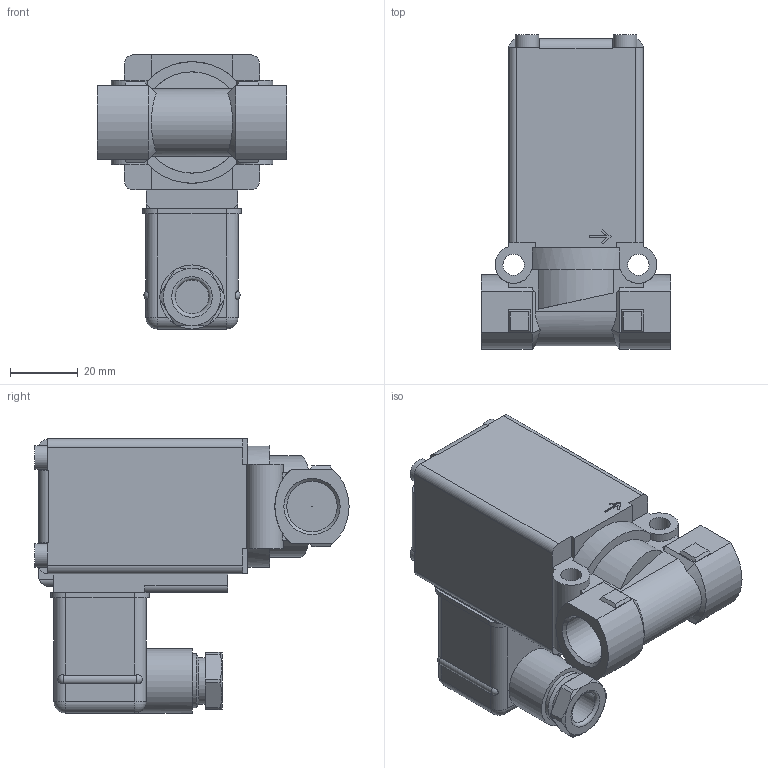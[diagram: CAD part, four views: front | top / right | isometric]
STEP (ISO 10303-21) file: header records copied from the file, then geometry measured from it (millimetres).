
FILE_DESCRIPTION(/* description */ ('STEP AP214'),/* implementation_level */ '2;1');
FILE_NAME(/* name */ '0256-145766-2_2-way_Solenoid_Valve',/* time_stamp */ '2024-07-31T16:26:25+02:00',/* author */ ('License CC BY-ND 4.0'),/* organization */ ('CADENAS'),/* preprocessor_version */ 'ST-DEVELOPER v19.3',/* originating_system */ 'PARTsolutions',/* authorisation */ ' ');
FILE_SCHEMA (('AUTOMOTIVE_DESIGN {1 0 10303 214 3 1 1}'));
Length unit declared in the file: millimetre
Products named in the file (1): 0256-145766-2/2-way Solenoid Valve
Bounding box: 56 x 93.1 x 81.2 mm (x, y, z)
Volume: 165170.1 mm3; surface area: 26739.8 mm2
Topology: 1 solids, 1 shells, 241 faces, 612 edges, 387 vertices
Faces by surface type: plane 152, cylinder 64, cone 16, sphere 8, torus 1
Full cylindrical faces by diameter (mm): 0.2 x1, 6.3 x2, 7 x5, 10 x1, 13.7 x1, 14.95 x2, 16 x1, 19 x1
Entity records: 8891 total; most frequent: CARTESIAN_POINT 1396, DIRECTION 1198, ORIENTED_EDGE 1178, EDGE_CURVE 589, AXIS2_PLACEMENT_3D 411, VERTEX_POINT 387, LINE 376, VECTOR 376
